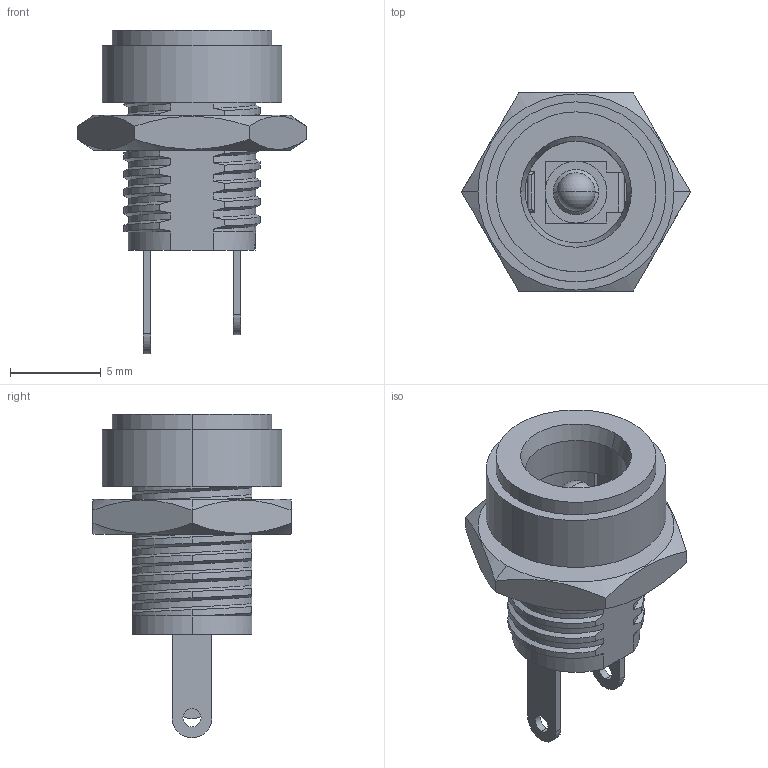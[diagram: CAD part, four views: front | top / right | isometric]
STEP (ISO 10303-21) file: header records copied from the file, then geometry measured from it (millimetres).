
FILE_DESCRIPTION (( 'STEP AP214' ), '1' );
FILE_NAME ('Jack_2.1.STEP', '2024-01-21T22:08:35', ( '' ), ( '' ), 'SwSTEP 2.0', 'SolidWorks 2022', '' );
FILE_SCHEMA (( 'AUTOMOTIVE_DESIGN' ));
Length unit declared in the file: millimetre
Products named in the file (1): Jack_2.1
Bounding box: 12.59 x 10.9 x 17.8 mm (x, y, z)
Volume: 504 mm3; surface area: 1281.9 mm2
Topology: 5 solids, 5 shells, 229 faces, 611 edges, 398 vertices
Faces by surface type: plane 72, cylinder 71, bspline 70, cone 8, sphere 4, torus 4
Entity records: 23366 total; most frequent: CARTESIAN_POINT 18380, ORIENTED_EDGE 1214, DIRECTION 777, EDGE_CURVE 607, VERTEX_POINT 396, AXIS2_PLACEMENT_3D 274, EDGE_LOOP 251, VECTOR 229
